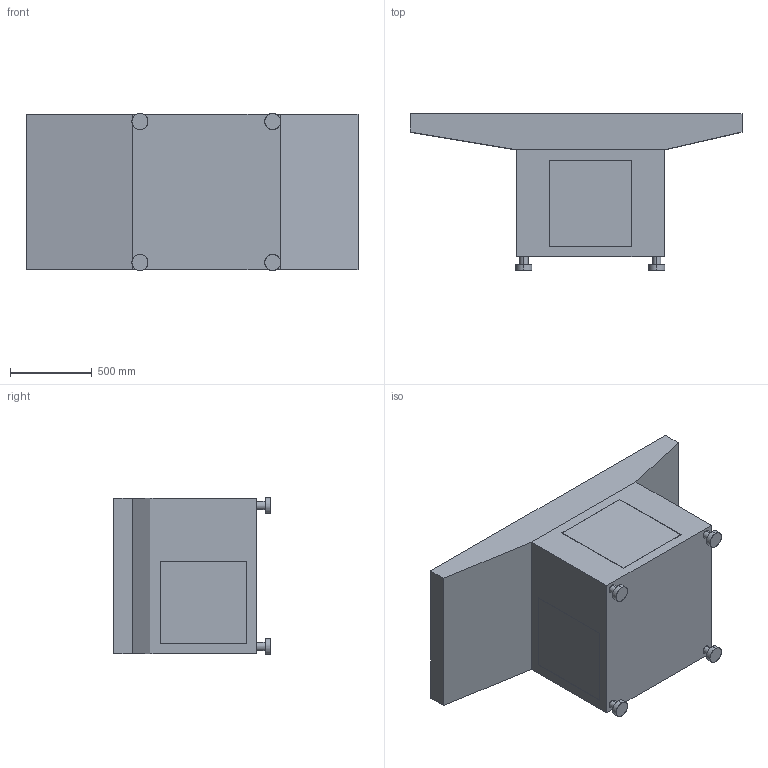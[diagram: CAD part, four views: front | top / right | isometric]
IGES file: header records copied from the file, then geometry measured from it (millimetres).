
Start section: SolidWorks IGES file using analytic representation for surfaces
Global section: file name: R:\Drawings\Files saved as other types\Solid_Models\MODELS FOR PUBLIC\30297 PCNC-1100 BASE.IGS; native system: SolidWorks 2012; preprocessor: SolidWorks 2012; author: rtooley; date: 140618.095922; units: millimetre
Bounding box: 2025 x 953.5 x 958 mm (x, y, z)
Surface area: 8789944.6 mm2 (no closed solid volume)
Topology: 0 solids, 0 shells, 117 faces, 1644 edges, 1644 vertices
Faces by surface type: bspline 93, revolution 24
